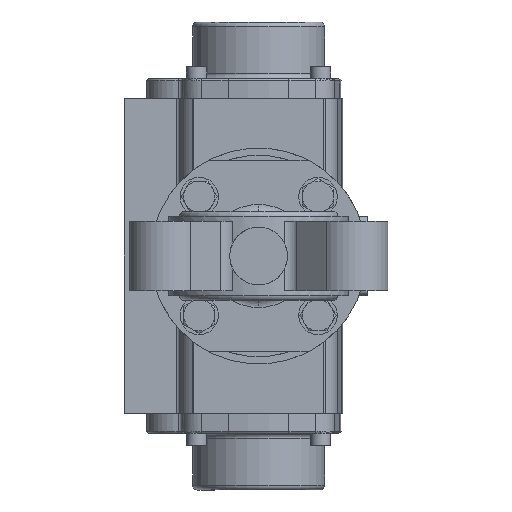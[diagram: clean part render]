
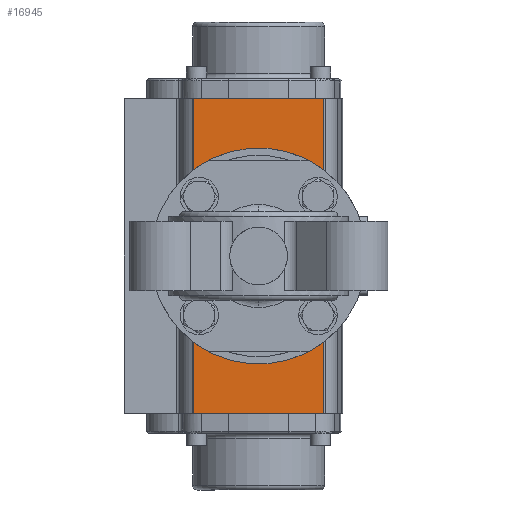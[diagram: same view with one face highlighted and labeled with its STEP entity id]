
A CAD part, front view. The second image highlights one B-rep face of the part: STEP entity #16945.
In plain terms, the highlighted planar face has unit normal (0, -1, 0).
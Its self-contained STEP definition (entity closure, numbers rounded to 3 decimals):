
#167 = EDGE_CURVE ( 'NONE', #8697, #25815, #10766, .T. ) ;
#221 = CIRCLE ( 'NONE', #5296, 2.5 ) ;
#244 = DIRECTION ( 'NONE',  ( 0., 0., -1. ) ) ;
#340 = EDGE_CURVE ( 'NONE', #3936, #10497, #221, .T. ) ;
#1736 = VECTOR ( 'NONE', #12466, 1000. ) ;
#1830 = CIRCLE ( 'NONE', #21289, 2.5 ) ;
#2021 = DIRECTION ( 'NONE',  ( 0., 0., -1. ) ) ;
#2658 = CARTESIAN_POINT ( 'NONE',  ( -17.678, -45., 17.678 ) ) ;
#2672 = CARTESIAN_POINT ( 'NONE',  ( 65.45, -45., 27. ) ) ;
#2719 = DIRECTION ( 'NONE',  ( 0., 0., -1. ) ) ;
#2753 = VERTEX_POINT ( 'NONE', #21644 ) ;
#2928 = VECTOR ( 'NONE', #19747, 1000. ) ;
#3107 = ORIENTED_EDGE ( 'NONE', *, *, #167, .F. ) ;
#3272 = VECTOR ( 'NONE', #10625, 1000. ) ;
#3488 = DIRECTION ( 'NONE',  ( 0., -1., 0. ) ) ;
#3658 = DIRECTION ( 'NONE',  ( 0., 1., 0. ) ) ;
#3727 = ORIENTED_EDGE ( 'NONE', *, *, #16897, .F. ) ;
#3873 = CARTESIAN_POINT ( 'NONE',  ( 17.678, -45., -17.678 ) ) ;
#3908 = EDGE_LOOP ( 'NONE', ( #17757, #3727 ) ) ;
#3920 = FACE_BOUND ( 'NONE', #7306, .T. ) ;
#3936 = VERTEX_POINT ( 'NONE', #9493 ) ;
#4011 = VECTOR ( 'NONE', #13176, 1000. ) ;
#4020 = CARTESIAN_POINT ( 'NONE',  ( -17.678, -45., 15.178 ) ) ;
#4065 = CARTESIAN_POINT ( 'NONE',  ( -17.678, -45., -17.678 ) ) ;
#4078 = DIRECTION ( 'NONE',  ( 0., 0., 1. ) ) ;
#4190 = CARTESIAN_POINT ( 'NONE',  ( 17.678, -45., 20.178 ) ) ;
#4201 = DIRECTION ( 'NONE',  ( 0., -1., 0. ) ) ;
#4351 = EDGE_CURVE ( 'NONE', #21583, #23913, #16691, .T. ) ;
#4358 = EDGE_LOOP ( 'NONE', ( #18244, #6212 ) ) ;
#4443 = ORIENTED_EDGE ( 'NONE', *, *, #340, .F. ) ;
#4842 = CIRCLE ( 'NONE', #9055, 2.5 ) ;
#5296 = AXIS2_PLACEMENT_3D ( 'NONE', #7192, #3488, #21901 ) ;
#5351 = EDGE_CURVE ( 'NONE', #7946, #24608, #4842, .T. ) ;
#5633 = FACE_OUTER_BOUND ( 'NONE', #15352, .T. ) ;
#5766 = PLANE ( 'NONE',  #24727 ) ;
#5890 = FACE_BOUND ( 'NONE', #12601, .T. ) ;
#6087 = EDGE_CURVE ( 'NONE', #8697, #24515, #10328, .T. ) ;
#6212 = ORIENTED_EDGE ( 'NONE', *, *, #18644, .F. ) ;
#7129 = ORIENTED_EDGE ( 'NONE', *, *, #13531, .F. ) ;
#7192 = CARTESIAN_POINT ( 'NONE',  ( 17.678, -45., 17.678 ) ) ;
#7306 = EDGE_LOOP ( 'NONE', ( #16548, #24667 ) ) ;
#7514 = ORIENTED_EDGE ( 'NONE', *, *, #6087, .T. ) ;
#7711 = ORIENTED_EDGE ( 'NONE', *, *, #4351, .F. ) ;
#7745 = DIRECTION ( 'NONE',  ( 0., 0., -1. ) ) ;
#7750 = CARTESIAN_POINT ( 'NONE',  ( 17.678, -45., -17.678 ) ) ;
#7816 = ORIENTED_EDGE ( 'NONE', *, *, #20248, .T. ) ;
#7946 = VERTEX_POINT ( 'NONE', #15026 ) ;
#8097 = CARTESIAN_POINT ( 'NONE',  ( -65.45, -45., 27. ) ) ;
#8697 = VERTEX_POINT ( 'NONE', #23192 ) ;
#9055 = AXIS2_PLACEMENT_3D ( 'NONE', #4065, #12126, #16009 ) ;
#9145 = LINE ( 'NONE', #17243, #2928 ) ;
#9375 = CARTESIAN_POINT ( 'NONE',  ( -17.678, -45., -20.178 ) ) ;
#9412 = DIRECTION ( 'NONE',  ( 0., 0., 1. ) ) ;
#9493 = CARTESIAN_POINT ( 'NONE',  ( 17.678, -45., 15.178 ) ) ;
#10293 = CARTESIAN_POINT ( 'NONE',  ( 0., -45., 15. ) ) ;
#10312 = AXIS2_PLACEMENT_3D ( 'NONE', #2658, #17097, #22916 ) ;
#10328 = LINE ( 'NONE', #2672, #1736 ) ;
#10366 = AXIS2_PLACEMENT_3D ( 'NONE', #25935, #16276, #4078 ) ;
#10497 = VERTEX_POINT ( 'NONE', #4190 ) ;
#10625 = DIRECTION ( 'NONE',  ( 0., 0., -1. ) ) ;
#10739 = AXIS2_PLACEMENT_3D ( 'NONE', #7750, #4201, #23952 ) ;
#10766 = LINE ( 'NONE', #21137, #4011 ) ;
#10782 = EDGE_LOOP ( 'NONE', ( #4443, #12482 ) ) ;
#10915 = DIRECTION ( 'NONE',  ( 0., -1., 0. ) ) ;
#11838 = FACE_BOUND ( 'NONE', #3908, .T. ) ;
#11901 = ORIENTED_EDGE ( 'NONE', *, *, #13283, .F. ) ;
#12126 = DIRECTION ( 'NONE',  ( 0., -1., 0. ) ) ;
#12466 = DIRECTION ( 'NONE',  ( -1., 0., 0. ) ) ;
#12482 = ORIENTED_EDGE ( 'NONE', *, *, #16332, .F. ) ;
#12601 = EDGE_LOOP ( 'NONE', ( #11901, #7711 ) ) ;
#12602 = CIRCLE ( 'NONE', #16013, 15. ) ;
#12672 = DIRECTION ( 'NONE',  ( 0., -1., 0. ) ) ;
#13014 = VERTEX_POINT ( 'NONE', #22178 ) ;
#13176 = DIRECTION ( 'NONE',  ( 0., 0., -1. ) ) ;
#13283 = EDGE_CURVE ( 'NONE', #23913, #21583, #21499, .T. ) ;
#13337 = CARTESIAN_POINT ( 'NONE',  ( 17.678, -45., -20.178 ) ) ;
#13468 = AXIS2_PLACEMENT_3D ( 'NONE', #3873, #22411, #2021 ) ;
#13531 = EDGE_CURVE ( 'NONE', #25815, #2753, #9145, .T. ) ;
#13589 = FACE_BOUND ( 'NONE', #4358, .T. ) ;
#13821 = CARTESIAN_POINT ( 'NONE',  ( 0., -45., -15. ) ) ;
#13928 = CARTESIAN_POINT ( 'NONE',  ( 65.45, -45., -27. ) ) ;
#14642 = EDGE_CURVE ( 'NONE', #24608, #7946, #24554, .T. ) ;
#14668 = CARTESIAN_POINT ( 'NONE',  ( -17.678, -45., -17.678 ) ) ;
#15026 = CARTESIAN_POINT ( 'NONE',  ( -17.678, -45., -15.178 ) ) ;
#15352 = EDGE_LOOP ( 'NONE', ( #7816, #7129, #3107, #7514 ) ) ;
#15651 = AXIS2_PLACEMENT_3D ( 'NONE', #14668, #12672, #244 ) ;
#15713 = DIRECTION ( 'NONE',  ( 0., -1., 0. ) ) ;
#16009 = DIRECTION ( 'NONE',  ( 0., 0., -1. ) ) ;
#16013 = AXIS2_PLACEMENT_3D ( 'NONE', #23744, #19502, #9412 ) ;
#16276 = DIRECTION ( 'NONE',  ( 0., -1., 0. ) ) ;
#16332 = EDGE_CURVE ( 'NONE', #10497, #3936, #1830, .T. ) ;
#16407 = VERTEX_POINT ( 'NONE', #13821 ) ;
#16548 = ORIENTED_EDGE ( 'NONE', *, *, #14642, .F. ) ;
#16672 = AXIS2_PLACEMENT_3D ( 'NONE', #25912, #15713, #7745 ) ;
#16691 = CIRCLE ( 'NONE', #10739, 2.5 ) ;
#16768 = EDGE_CURVE ( 'NONE', #25486, #13014, #23455, .T. ) ;
#16897 = EDGE_CURVE ( 'NONE', #13014, #25486, #19644, .T. ) ;
#16945 = ADVANCED_FACE ( 'NONE', ( #5890, #3920, #11838, #23682, #13589, #5633 ), #5766, .F. ) ;
#17097 = DIRECTION ( 'NONE',  ( 0., -1., 0. ) ) ;
#17243 = CARTESIAN_POINT ( 'NONE',  ( 65.45, -45., -27. ) ) ;
#17338 = VERTEX_POINT ( 'NONE', #10293 ) ;
#17579 = CIRCLE ( 'NONE', #10366, 15. ) ;
#17757 = ORIENTED_EDGE ( 'NONE', *, *, #16768, .F. ) ;
#18244 = ORIENTED_EDGE ( 'NONE', *, *, #25724, .F. ) ;
#18644 = EDGE_CURVE ( 'NONE', #16407, #17338, #17579, .T. ) ;
#19502 = DIRECTION ( 'NONE',  ( 0., -1., 0. ) ) ;
#19644 = CIRCLE ( 'NONE', #16672, 2.5 ) ;
#19747 = DIRECTION ( 'NONE',  ( -1., 0., 0. ) ) ;
#19833 = DIRECTION ( 'NONE',  ( 0., 0., 1. ) ) ;
#20248 = EDGE_CURVE ( 'NONE', #24515, #2753, #22720, .T. ) ;
#20860 = CARTESIAN_POINT ( 'NONE',  ( 17.678, -45., 17.678 ) ) ;
#21137 = CARTESIAN_POINT ( 'NONE',  ( 65.45, -45., 27. ) ) ;
#21289 = AXIS2_PLACEMENT_3D ( 'NONE', #20860, #10915, #2719 ) ;
#21499 = CIRCLE ( 'NONE', #13468, 2.5 ) ;
#21583 = VERTEX_POINT ( 'NONE', #25200 ) ;
#21644 = CARTESIAN_POINT ( 'NONE',  ( -65.45, -45., -27. ) ) ;
#21806 = CARTESIAN_POINT ( 'NONE',  ( 65.45, -45., 27. ) ) ;
#21901 = DIRECTION ( 'NONE',  ( 0., 0., -1. ) ) ;
#22178 = CARTESIAN_POINT ( 'NONE',  ( -17.678, -45., 20.178 ) ) ;
#22411 = DIRECTION ( 'NONE',  ( 0., -1., 0. ) ) ;
#22720 = LINE ( 'NONE', #24991, #3272 ) ;
#22916 = DIRECTION ( 'NONE',  ( 0., 0., -1. ) ) ;
#23192 = CARTESIAN_POINT ( 'NONE',  ( 65.45, -45., 27. ) ) ;
#23455 = CIRCLE ( 'NONE', #10312, 2.5 ) ;
#23682 = FACE_BOUND ( 'NONE', #10782, .T. ) ;
#23744 = CARTESIAN_POINT ( 'NONE',  ( 0., -45., 0. ) ) ;
#23913 = VERTEX_POINT ( 'NONE', #13337 ) ;
#23952 = DIRECTION ( 'NONE',  ( 0., 0., -1. ) ) ;
#24515 = VERTEX_POINT ( 'NONE', #8097 ) ;
#24554 = CIRCLE ( 'NONE', #15651, 2.5 ) ;
#24608 = VERTEX_POINT ( 'NONE', #9375 ) ;
#24667 = ORIENTED_EDGE ( 'NONE', *, *, #5351, .F. ) ;
#24727 = AXIS2_PLACEMENT_3D ( 'NONE', #21806, #3658, #19833 ) ;
#24991 = CARTESIAN_POINT ( 'NONE',  ( -65.45, -45., 27. ) ) ;
#25200 = CARTESIAN_POINT ( 'NONE',  ( 17.678, -45., -15.178 ) ) ;
#25486 = VERTEX_POINT ( 'NONE', #4020 ) ;
#25724 = EDGE_CURVE ( 'NONE', #17338, #16407, #12602, .T. ) ;
#25815 = VERTEX_POINT ( 'NONE', #13928 ) ;
#25912 = CARTESIAN_POINT ( 'NONE',  ( -17.678, -45., 17.678 ) ) ;
#25935 = CARTESIAN_POINT ( 'NONE',  ( 0., -45., 0. ) ) ;
